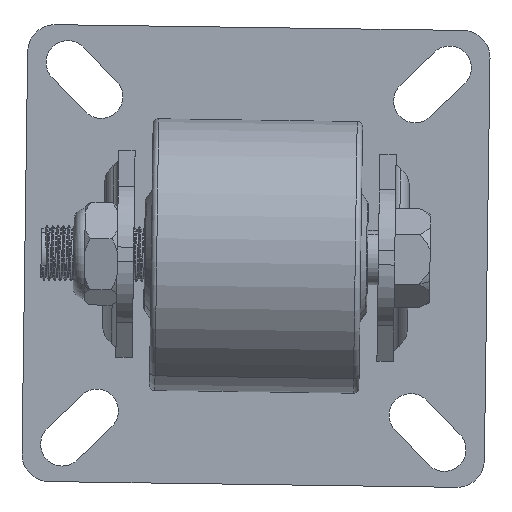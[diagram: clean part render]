
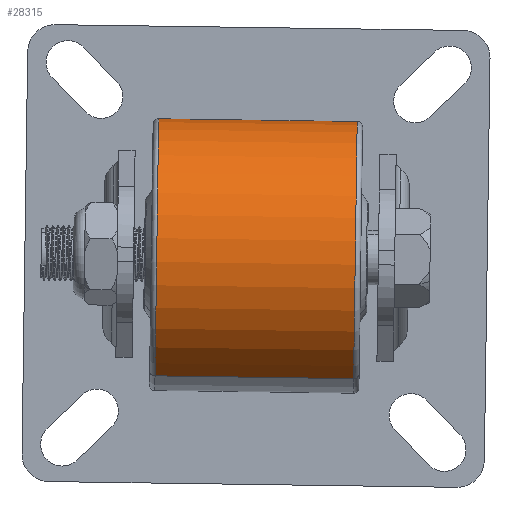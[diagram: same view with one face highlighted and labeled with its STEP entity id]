
A CAD part, front view. The second image highlights one B-rep face of the part: STEP entity #28315.
In plain terms, the highlighted cylindrical face has radius 25 mm (diameter 50 mm), a partial arc.
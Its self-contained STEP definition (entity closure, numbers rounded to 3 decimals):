
#777 = CARTESIAN_POINT ( 'NONE',  ( 0., 18.25, 0. ) ) ;
#1558 = ORIENTED_EDGE ( 'NONE', *, *, #27957, .F. ) ;
#2884 = FACE_OUTER_BOUND ( 'NONE', #18826, .T. ) ;
#3482 = VERTEX_POINT ( 'NONE', #13445 ) ;
#4323 = EDGE_CURVE ( 'NONE', #3482, #13615, #8726, .T. ) ;
#4950 = CYLINDRICAL_SURFACE ( 'NONE', #28201, 25. ) ;
#5615 = VECTOR ( 'NONE', #25434, 1000. ) ;
#7560 = VECTOR ( 'NONE', #25777, 1000. ) ;
#8726 = CIRCLE ( 'NONE', #25158, 25. ) ;
#9323 = DIRECTION ( 'NONE',  ( 0., -1., 0. ) ) ;
#11246 = AXIS2_PLACEMENT_3D ( 'NONE', #777, #9323, #16225 ) ;
#12263 = LINE ( 'NONE', #16789, #7560 ) ;
#13445 = CARTESIAN_POINT ( 'NONE',  ( 0., -18.25, 25. ) ) ;
#13615 = VERTEX_POINT ( 'NONE', #20615 ) ;
#14058 = CIRCLE ( 'NONE', #11246, 25. ) ;
#14114 = ORIENTED_EDGE ( 'NONE', *, *, #17117, .T. ) ;
#14452 = ORIENTED_EDGE ( 'NONE', *, *, #4323, .T. ) ;
#15987 = CARTESIAN_POINT ( 'NONE',  ( 0., 18.25, -25. ) ) ;
#16125 = CARTESIAN_POINT ( 'NONE',  ( 0., 0., 0. ) ) ;
#16225 = DIRECTION ( 'NONE',  ( 0., 0., 1. ) ) ;
#16293 = CARTESIAN_POINT ( 'NONE',  ( 0., -18.25, 0. ) ) ;
#16454 = LINE ( 'NONE', #25584, #5615 ) ;
#16789 = CARTESIAN_POINT ( 'NONE',  ( 0., 0., 25. ) ) ;
#17117 = EDGE_CURVE ( 'NONE', #22398, #23632, #14058, .T. ) ;
#18826 = EDGE_LOOP ( 'NONE', ( #14114, #20835, #14452, #1558 ) ) ;
#20615 = CARTESIAN_POINT ( 'NONE',  ( 0., -18.25, -25. ) ) ;
#20694 = DIRECTION ( 'NONE',  ( 0., 0., -1. ) ) ;
#20835 = ORIENTED_EDGE ( 'NONE', *, *, #24005, .T. ) ;
#22398 = VERTEX_POINT ( 'NONE', #15987 ) ;
#23632 = VERTEX_POINT ( 'NONE', #26558 ) ;
#24005 = EDGE_CURVE ( 'NONE', #23632, #3482, #12263, .T. ) ;
#25158 = AXIS2_PLACEMENT_3D ( 'NONE', #16293, #26906, #25276 ) ;
#25276 = DIRECTION ( 'NONE',  ( 0., 0., -1. ) ) ;
#25434 = DIRECTION ( 'NONE',  ( 0., -1., 0. ) ) ;
#25584 = CARTESIAN_POINT ( 'NONE',  ( 0., 0., -25. ) ) ;
#25777 = DIRECTION ( 'NONE',  ( 0., -1., 0. ) ) ;
#26558 = CARTESIAN_POINT ( 'NONE',  ( 0., 18.25, 25. ) ) ;
#26906 = DIRECTION ( 'NONE',  ( 0., 1., 0. ) ) ;
#27469 = DIRECTION ( 'NONE',  ( 0., -1., 0. ) ) ;
#27957 = EDGE_CURVE ( 'NONE', #22398, #13615, #16454, .T. ) ;
#28201 = AXIS2_PLACEMENT_3D ( 'NONE', #16125, #27469, #20694 ) ;
#28315 = ADVANCED_FACE ( 'NONE', ( #2884 ), #4950, .T. ) ;
